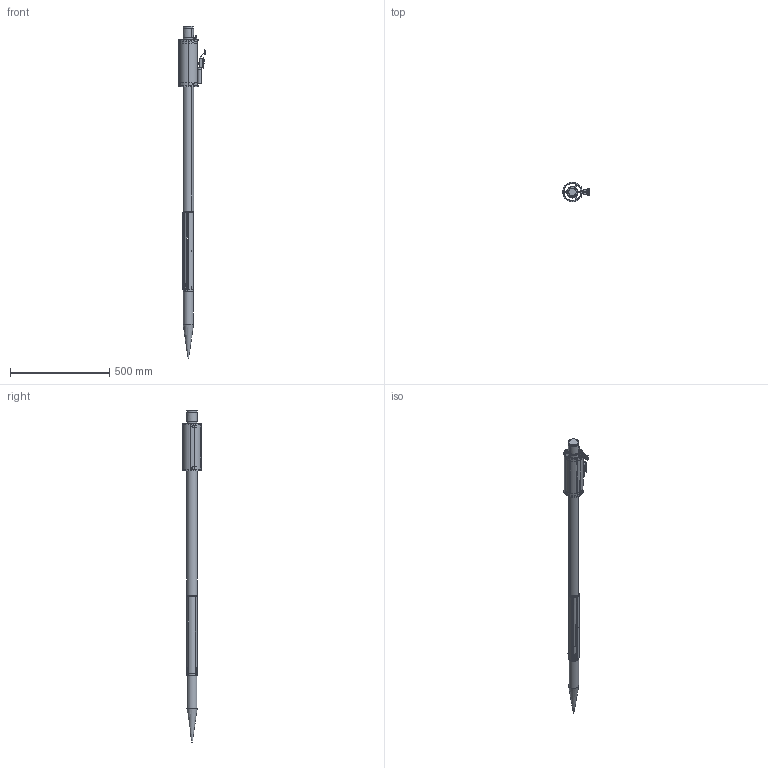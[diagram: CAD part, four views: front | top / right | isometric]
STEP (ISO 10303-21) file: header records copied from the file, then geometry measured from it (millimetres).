
FILE_DESCRIPTION(('Open CASCADE Model'),'2;1');
FILE_NAME('Open CASCADE Shape Model','2026-08-25T14:47:09',('Author'),( 'Open CASCADE'),'Open CASCADE STEP processor 7.9','Open CASCADE 7.9' ,'Unknown');
FILE_SCHEMA(('AP242_MANAGED_MODEL_BASED_3D_ENGINEERING_MIM_LF {1 0 10303 442 1 1 4 }' ));
Length unit declared in the file: millimetre
Products named in the file (105): STINGRAY_I5S_DF8_SHORT14_EXTERNAL_BUOY_STOWED_ASSY; Forward_Body_Assembly; Penetrator_Nose_W; Forward_Ballast_W; BALLAST-AFT-FACE_TO_ARM-CARRIER_STRUCTURAL_TRANSITION_RING_TI; Forward_Mandatory_Hardware_Assembly; Accu_HTP-3-30-A1; Arm_Activation_Powertrain_Assembly; SHORTENED_ANALYTIC_CYLINDRICAL_FIXED_BODY_SECTOR_TI_01; SHORTENED_PRIMARY_ARM-MODULE_LONGERON_TI_01; SHORTENED_FIXED_SECTOR_3_WITH_BACKUP-GUIDE_ACCESS_TI; SHORTENED_PRIMARY_LONGERON_3_WITH_BACKUP-GUIDE_BORES_TI; SHORT-ARM_MODULE_AFT_STRUCTURAL_TERMINATION_RING_TI; ONE-PIECE_SIX-CLEVIS_GUIDED_COMMON_CROSSHEAD_WITHOUT_BOOLEAN_DEBRIS_SS; CENTRAL_DLC_CROSSHEAD_GUIDE_SHAFT_WITH_SPIDER_SHOULDER_SS; THREE-SPOKE_CROSSHEAD-GUIDE_FORWARD_MOUNT_TI; CONTROLLED_16_N_MM_GUIDED_BACKUP_COMPRESSION_SPRING_SS; BACKUP_SPRING_AFT_FIXED_SEAT_WITH_LONGERON_MOUNTING_TONGUE_TI; BACKUP_SPRING_CROSSHEAD_SEAT_WITH_PILOTED_PERMANENT_LAND_SS; BACKUP_SPRING_DLC_GUIDE_SHAFT_WITH_TWO_FIXED_SUPPORT_SHOULDERS_SS; ACE_Gas_Spring_GS-19-50-V4A-B8-B8; ACE_Gas_Spring_Rod_GS-19-50-V4A-B8-B8; ACE_Hydraulic_Damper_HBD-15-25-AA-P; ACE_Hydraulic_Damper_Rod_HBD-15-25-AA-P; DOUBLE-SHEAR_GS19_ANCHOR_YOKE_WITH_CONFORMAL_LONGERON_TONGUE_TI; 4_MM_CAPTIVE_ACTUATOR_CLEVIS_PIN_SS_01; 4_MM_ACTUATOR_PIN_RETAINER_SS_01; DOUBLE-SHEAR_HBD_ANCHOR_YOKE_WITH_CONFORMAL_LONGERON_TONGUE_TI; Arm_Deployment_Assembly_01; 378.206_MM_PIVOT-TO-TIP_SHORTENED_ARM_BLADE_WITH_CONTROLLED_ROUNDED_
TIP_TI_01; SOURCE-EXACT_DOUBLE-SHEAR_PIVOT_CARRIER_PRIMARY_LUG_TI_01; 8_MM_CAPTIVE_SHOULDER_PIVOT_PIN_WITH_EXTERNAL_GROOVE_SS_01; 8_MM_PEEK-LINED_PIVOT_BUSHING_PEEK_01; 8_MM_PEEK_THRUST_WASHER_PEEK_01; 8_MM_EXTERNAL_SPIRAL_PIVOT_RETAINER_SS_01; 19.950_MM_CENTER-DISTANCE_REAMED_SHORT_LINK_SS_01; 4_MM_FULL-SPAN_LINK_PIN_WITH_DC-4SS_RETAINER_GROOVE_SS_01; Rotor_Clip_Retaining_Ring_DC-4SS_01; REPLACEABLE_ARM_STOP_AND_AUTOMATIC-LOCK_STRIKE_SS_01; 80_DEGREE_SWEPT-CLEARANCE_FIXED_STOP_WITH_CONTROLLED_AUTOMATIC-LOCK_
BUSHING_SEAT_SS_01 ...
Assembly tree (192 placements, depth 4):
  STINGRAY_I5S_DF8_SHORT14_EXTERNAL_BUOY_STOWED_ASSY
    Forward_Body_Assembly
      Penetrator_Nose_W
      Forward_Ballast_W
      BALLAST-AFT-FACE_TO_ARM-CARRIER_STRUCTURAL_TRANSITION_RING_TI
      Forward_Mandatory_Hardware_Assembly
        Accu_HTP-3-30-A1
    Arm_Activation_Powertrain_Assembly
      SHORTENED_ANALYTIC_CYLINDRICAL_FIXED_BODY_SECTOR_TI_01  x2
      SHORTENED_PRIMARY_ARM-MODULE_LONGERON_TI_01  x2
      SHORTENED_FIXED_SECTOR_3_WITH_BACKUP-GUIDE_ACCESS_TI
      SHORTENED_PRIMARY_LONGERON_3_WITH_BACKUP-GUIDE_BORES_TI
      SHORT-ARM_MODULE_AFT_STRUCTURAL_TERMINATION_RING_TI
      ONE-PIECE_SIX-CLEVIS_GUIDED_COMMON_CROSSHEAD_WITHOUT_BOOLEAN_DEBRIS_SS
      CENTRAL_DLC_CROSSHEAD_GUIDE_SHAFT_WITH_SPIDER_SHOULDER_SS
      THREE-SPOKE_CROSSHEAD-GUIDE_FORWARD_MOUNT_TI
      CONTROLLED_16_N_MM_GUIDED_BACKUP_COMPRESSION_SPRING_SS
      BACKUP_SPRING_AFT_FIXED_SEAT_WITH_LONGERON_MOUNTING_TONGUE_TI
      BACKUP_SPRING_CROSSHEAD_SEAT_WITH_PILOTED_PERMANENT_LAND_SS
      BACKUP_SPRING_DLC_GUIDE_SHAFT_WITH_TWO_FIXED_SUPPORT_SHOULDERS_SS
      ACE_Gas_Spring_GS-19-50-V4A-B8-B8
      ACE_Gas_Spring_Rod_GS-19-50-V4A-B8-B8
      ACE_Hydraulic_Damper_HBD-15-25-AA-P
      ACE_Hydraulic_Damper_Rod_HBD-15-25-AA-P
      DOUBLE-SHEAR_GS19_ANCHOR_YOKE_WITH_CONFORMAL_LONGERON_TONGUE_TI
      4_MM_CAPTIVE_ACTUATOR_CLEVIS_PIN_SS_01  x4
      4_MM_ACTUATOR_PIN_RETAINER_SS_01  x4
      DOUBLE-SHEAR_HBD_ANCHOR_YOKE_WITH_CONFORMAL_LONGERON_TONGUE_TI
      Arm_Deployment_Assembly_01
        378.206_MM_PIVOT-TO-TIP_SHORTENED_ARM_BLADE_WITH_CONTROLLED_ROUNDED_
TIP_TI_01
        SOURCE-EXACT_DOUBLE-SHEAR_PIVOT_CARRIER_PRIMARY_LUG_TI_01
        8_MM_CAPTIVE_SHOULDER_PIVOT_PIN_WITH_EXTERNAL_GROOVE_SS_01
        8_MM_PEEK-LINED_PIVOT_BUSHING_PEEK_01  x2
        8_MM_PEEK_THRUST_WASHER_PEEK_01  x2
        8_MM_EXTERNAL_SPIRAL_PIVOT_RETAINER_SS_01
        19.950_MM_CENTER-DISTANCE_REAMED_SHORT_LINK_SS_01  x2
        4_MM_FULL-SPAN_LINK_PIN_WITH_DC-4SS_RETAINER_GROOVE_SS_01  x2
        Rotor_Clip_Retaining_Ring_DC-4SS_01  x2
        REPLACEABLE_ARM_STOP_AND_AUTOMATIC-LOCK_STRIKE_SS_01
        80_DEGREE_SWEPT-CLEARANCE_FIXED_STOP_WITH_CONTROLLED_AUTOMATIC-LOCK_
BUSHING_SEAT_SS_01
        CAPTIVE_RADIAL_STOWED-RETENTION_DOG_WITH_TRANSPORT-INHIBIT_BORE_SS_01
        SHORTENED-ARM_STOW-DOG_GUIDE_WITH_TERMINATION-RING_WELD_TONGUE_SS_01
        CAPTIVE_STOW-DOG_RADIAL_RETURN_SPRING_SS_01
        WITHDRAWABLE_HEADED_TRANSPORT-INHIBIT_PIN_SS_01
        CAPTIVE_CRESCENT_RETAINER_FOR_TRANSPORT-INHIBIT_PIN_SS_01
        SPRING-DRIVEN_POSITIVE_DEPLOYED_LOCK_DOG_SS_01
        CAPTIVE_LONG-STROKE_AUTOMATIC-LOCK_COMPRESSION_SPRING_SS_01
        PRESS-FIT_LOCK_GUIDE_OUTER_RETAINER_BUSHING_PEEK_01
        SOURCE-EXACT_DOUBLE-SHEAR_PIVOT_CARRIER_SECONDARY_LUG_TI_01
      Arm_Deployment_Assembly_02
        378.206_MM_PIVOT-TO-TIP_SHORTENED_ARM_BLADE_WITH_CONTROLLED_ROUNDED_
TIP_TI_01
        SOURCE-EXACT_DOUBLE-SHEAR_PIVOT_CARRIER_PRIMARY_LUG_TI_01
        8_MM_CAPTIVE_SHOULDER_PIVOT_PIN_WITH_EXTERNAL_GROOVE_SS_01
        8_MM_PEEK-LINED_PIVOT_BUSHING_PEEK_01  x2
        8_MM_PEEK_THRUST_WASHER_PEEK_01  x2
        8_MM_EXTERNAL_SPIRAL_PIVOT_RETAINER_SS_01
        19.950_MM_CENTER-DISTANCE_REAMED_SHORT_LINK_SS_01  x2
        4_MM_FULL-SPAN_LINK_PIN_WITH_DC-4SS_RETAINER_GROOVE_SS_01  x2
        Rotor_Clip_Retaining_Ring_DC-4SS_01  x2
        REPLACEABLE_ARM_STOP_AND_AUTOMATIC-LOCK_STRIKE_SS_01
Bounding box: 135 x 98 x 1675.4 mm (x, y, z)
Volume: 1152322.4 mm3; surface area: 943048 mm2
Topology: 180 solids, 180 shells, 3678 faces, 10508 edges, 7229 vertices
Faces by surface type: plane 2141, cylinder 1493, cone 26, bspline 7, sphere 7, torus 4
Full cylindrical faces by diameter (mm): 0.7 x3, 0.9 x3, 1 x3, 1.2 x10, 1.3 x9, 1.5 x3, 1.6 x3, 1.7 x3, 2 x6, 2.2 x12, 2.3 x6, 2.4 x3, 2.5 x8, 2.7 x6, 3 x26, 3.1 x6, 3.2 x6, 3.3 x9, 3.5 x10, 4 x25, 4.3 x2, 4.36 x20, 5 x3, 5.1 x2, 5.5 x15, 5.7 x2, 6 x14, 6.3 x3, 6.4 x3, 6.7 x1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
Entity records: 140235 total; most frequent: CARTESIAN_POINT 46514, DIRECTION 15873, ORIENTED_EDGE 9564, PCURVE 9564, DEFINITIONAL_REPRESENTATION 9564, LINE 6706, VECTOR 6706, EDGE_CURVE 4782
